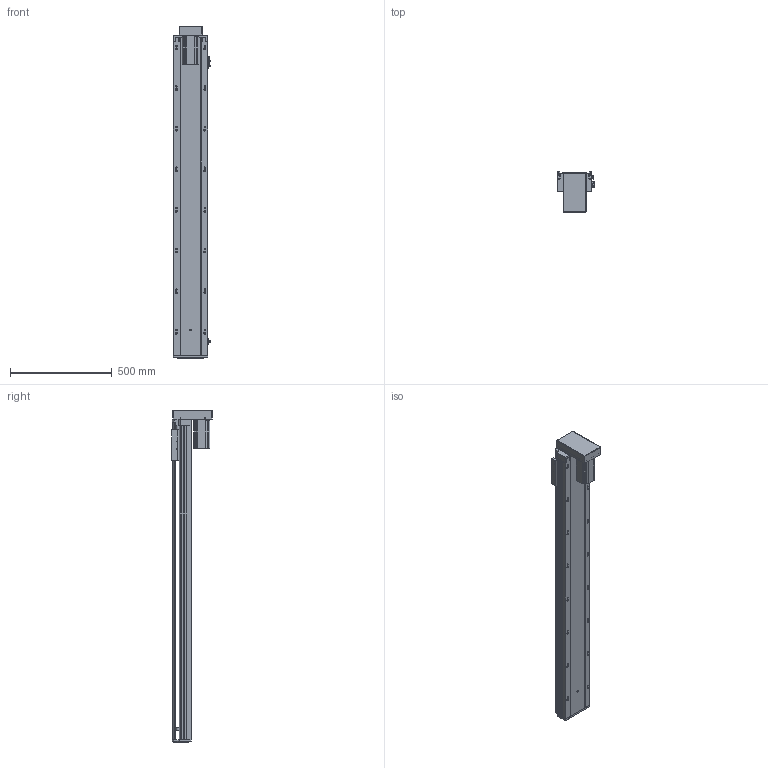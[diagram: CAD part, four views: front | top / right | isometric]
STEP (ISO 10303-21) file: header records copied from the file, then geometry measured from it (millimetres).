
FILE_DESCRIPTION (( 'STEP AP203' ), '1' );
FILE_NAME ('RY170-L2510-1400-BK.SLDASM_1300.step', '2021-03-12T09:25:49', ( '盈信电脑' ), ( '东莞市道滘镇水果街19号' ), 'SwSTEP 2.0', 'SolidWorks 2012', '' );
FILE_SCHEMA (( 'CONFIG_CONTROL_DESIGN' ));
Length unit declared in the file: millimetre
Products named in the file (14): RY170转折电机端支撑座(7004); 怢湛750W萇儂ㄗ80遺ㄘ; RY170-狟殏萇儂假蚾啣; RY170狟殏萇儂欶; RY170-L2510-1400-BK.SLDASM_1300; 滅袉蝶18-15; RY170-狟殏750W萇儂傷; RY170綴裔啣; RY170外置感应片(200共用）; 覜茼ん672; 滅袉蝶18-20; RY170-1400倰第菁釱-BK_1300; 改造-RY170铝滑块25丝杆螺母; RY170-1400倰第裔啣-BK_1300
Assembly tree (15 placements, depth 3):
  RY170-L2510-1400-BK.SLDASM_1300
    RY170-1400倰第菁釱-BK_1300
    改造-RY170铝滑块25丝杆螺母
    RY170-1400倰第裔啣-BK_1300
    RY170綴裔啣
    覜茼ん672  x3
    RY170外置感应片(200共用）
    滅袉蝶18-20
    RY170转折电机端支撑座(7004)
    RY170-狟殏750W萇儂傷
      RY170-狟殏萇儂假蚾啣
      RY170狟殏萇儂欶
      怢湛750W萇儂ㄗ80遺ㄘ
    滅袉蝶18-15
Bounding box: 183.7 x 200.8 x 1634.5 mm (x, y, z)
Volume: 8575310.6 mm3; surface area: 2723123.3 mm2
Topology: 14 solids, 14 shells, 2242 faces, 6429 edges, 4106 vertices
Faces by surface type: plane 1084, cylinder 929, cone 210, bspline 19
Entity records: 72490 total; most frequent: CARTESIAN_POINT 17470, ORIENTED_EDGE 11530, DIRECTION 10691, EDGE_CURVE 5765, VERTEX_POINT 3786, AXIS2_PLACEMENT_3D 3577, LINE 3537, VECTOR 3537
